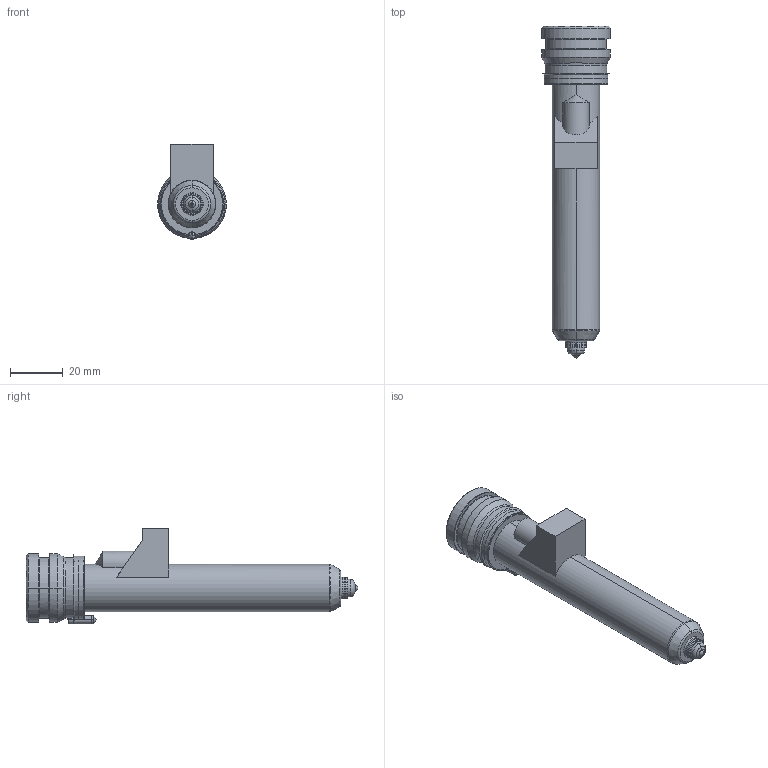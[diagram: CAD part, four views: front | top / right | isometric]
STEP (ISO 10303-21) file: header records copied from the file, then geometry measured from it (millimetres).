
FILE_DESCRIPTION((''),'2;1');
FILE_NAME('TH18107_5-M-1B15-PK-JG','2023-12-14T',('umhib'),('Thermoplay S.p.A.'),'PRO/ENGINEER BY PARAMETRIC TECHNOLOGY CORPORATION, 2017170','PRO/ENGINEER BY PARAMETRIC TECHNOLOGY CORPORATION, 2017170','');
FILE_SCHEMA(('CONFIG_CONTROL_DESIGN'));
Length unit declared in the file: millimetre
Products named in the file (1): TH18107_5-M-1B15-PK-JG
Bounding box: 26 x 125.5 x 36.1 mm (x, y, z)
Volume: 26087.3 mm3; surface area: 19981.2 mm2
Topology: 1 solids, 2 shells, 393 faces, 1003 edges, 615 vertices
Faces by surface type: cylinder 149, plane 87, cone 64, torus 58, bspline 22, sphere 11, extrusion 2
Entity records: 16875 total; most frequent: CARTESIAN_POINT 5192, DIRECTION 2010, ORIENTED_EDGE 1980, EDGE_CURVE 992, AXIS2_PLACEMENT_3D 810, VERTEX_POINT 615, CIRCLE 440, EDGE_LOOP 416
